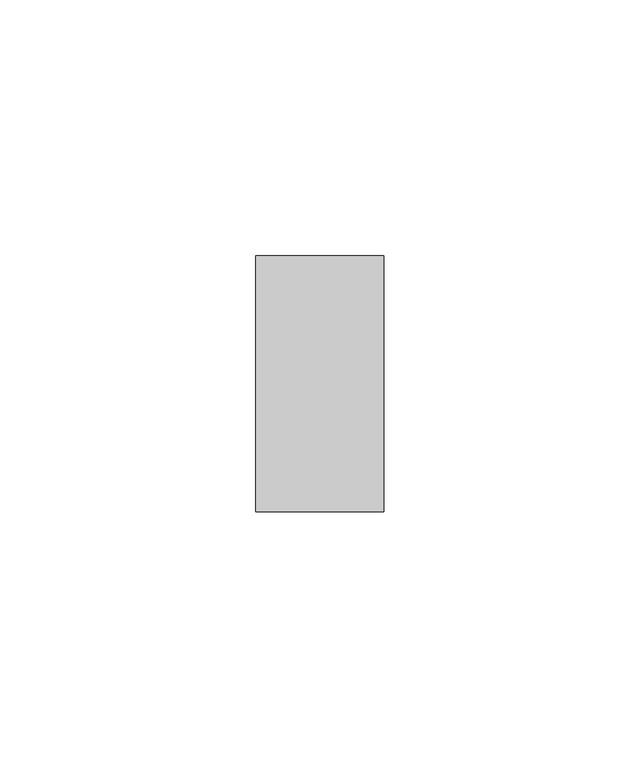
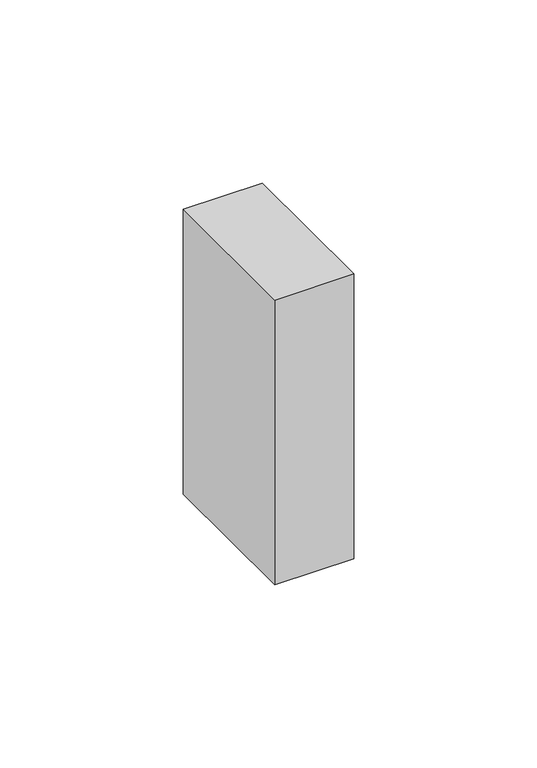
"""IFC4 building model written with IfcOpenShell, lengths in millimetres: duct fitting geometry, КНС_ЗаглушкаТорцевая_DKC : Заглушка торцевая."""

from ifc_helpers import new_model, si_unit, frame, origin, place, context, project, spatial, polyline, outline, extrude, source, transform, mapped, element, save


def duct_fitting_e96ebc83(model_context):
    return source(origin(), model_context, "Body", "SweptSolid", [
        extrude(outline(polyline([(35.1665888, 9.9242756), (35.1665888, -40.0757244), (10.1665888, -40.0757244), (10.1665888, 9.9242756), (35.1665888, 9.9242756)])), frame((0.0, 0.0, -47.5), z_axis=(0.0, 0.0, 1.0), x_axis=(1.0, 0.0, 0.0)), (0.0, 0.0, 1.0), 95.0),
    ])


if __name__ == "__main__":
    model = new_model("IFC4")
    model_context = context("Model", 3, world=origin())
    ifc_project = project(units=[si_unit("LENGTHUNIT", "METRE", prefix="MILLI")], contexts=[model_context])
    site = spatial("IfcSite", under=ifc_project)
    building = spatial("IfcBuilding", under=site)
    placement = place(None, origin())
    duct_fitting_shape = duct_fitting_e96ebc83(model_context)
    element("IfcDuctFitting", 1, ObjectType="КНС_ЗаглушкаТорцевая_DKC : Заглушка торцевая", at=placement, inside=building, context=model_context, shape_type="MappedRepresentation", body=[
        mapped(duct_fitting_shape, transform((0.0, 0.0, 0.0), x_axis=(1.0, 0.0, 0.0), y_axis=(0.0, 1.0, 0.0), z_axis=(0.0, 0.0, 1.0))),
    ])
    save(model, "model.ifc")
